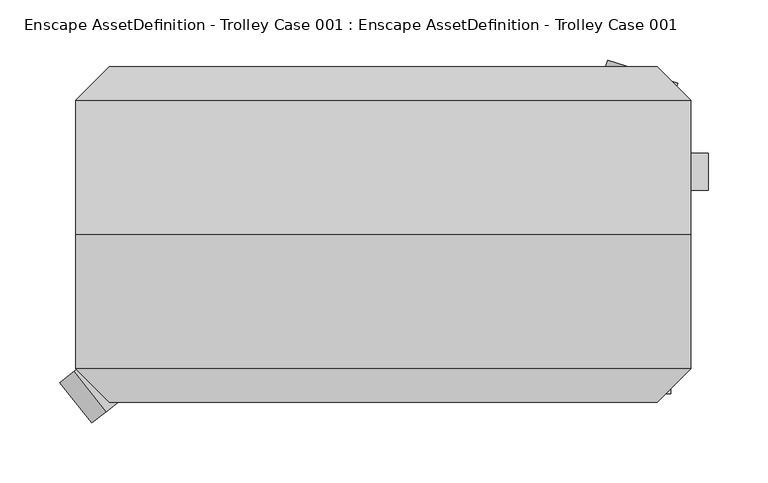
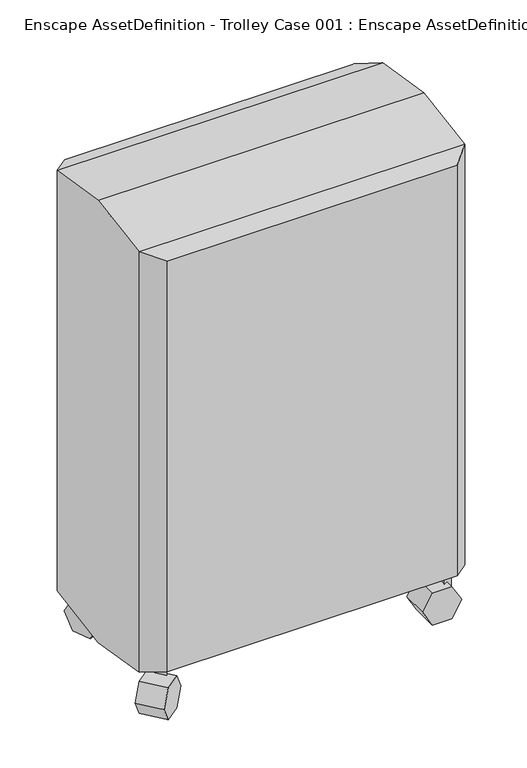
"""IFC4 building model written with IfcOpenShell, lengths in millimetres: geographic element geometry, Enscape AssetDefinition - Trolley Case 001 : Enscape AssetDefinition - Trolley Case 001."""

import ifcopenshell
import ifcopenshell.guid

model = None  # the IFC model being written
_history = None  # IfcOwnerHistory: only IFC2X3 demands one
_inside = {}  # id of a spatial element -> (the spatial element, [elements in it])
_under = {}  # id of a project, library or spatial element -> (it, [spatial elements below it])
_declared = {}  # id of a project -> (the project, [libraries it declares])
_typed = {}  # id of a type object -> (the type object, [elements of that type])
_made_of = {}  # id of a material, layer set ... -> (it, [elements and type objects made of it])


def new_model(schema):
    """Start an empty IFC model of exactly this schema.

    Asked for "IFC4X3", IfcOpenShell would pick the latest addendum, in which some entities
    have other attributes; the version numbers below select the first issue.
    IFC2X3 requires an IfcOwnerHistory on every rooted entity: one is made here for all.
    """
    global model, _history
    if schema == "IFC4X3":
        model = ifcopenshell.file(schema_version=(4, 3, 0, 0))
    else:
        model = ifcopenshell.file(schema=schema)
    _inside.clear()
    _under.clear()
    _declared.clear()
    _typed.clear()
    _made_of.clear()
    _history = None
    if model.schema == "IFC2X3":
        org = make("IfcOrganization", Name="unknown")
        user = make(
            "IfcPersonAndOrganization",
            ThePerson=make("IfcPerson", FamilyName="unknown"),
            TheOrganization=org,
        )
        app = make(
            "IfcApplication",
            ApplicationDeveloper=org,
            Version="unknown",
            ApplicationFullName="unknown",
            ApplicationIdentifier="unknown",
        )
        _history = make(
            "IfcOwnerHistory",
            OwningUser=user,
            OwningApplication=app,
            ChangeAction="ADDED",
            CreationDate=0,
        )
    return model


def make(cls, **values):
    """One entity of the class cls with the attributes given. An attribute that is None is left unset."""
    return model.create_entity(
        cls, **{name: value for name, value in values.items() if value is not None}
    )


def rooted(cls, **values):
    """An entity with a GlobalId (a new one), such as an element, a storey or a relation."""
    return make(cls, GlobalId=ifcopenshell.guid.new(), OwnerHistory=_history, **values)


def si_unit(unit_type, name, prefix=None):
    """IfcSIUnit, for example si_unit("LENGTHUNIT", "METRE", prefix="MILLI")."""
    return make("IfcSIUnit", UnitType=unit_type, Prefix=prefix, Name=name)


def assignment(units):
    """IfcUnitAssignment: the units of a project."""
    return None if units is None else make("IfcUnitAssignment", Units=units)


def point(xyz):
    """IfcCartesianPoint."""
    return None if xyz is None else make("IfcCartesianPoint", Coordinates=xyz)


def direction(xyz):
    """IfcDirection."""
    return None if xyz is None else make("IfcDirection", DirectionRatios=xyz)


def frame(location, z_axis=None, x_axis=None):
    """IfcAxis2Placement3D, a coordinate frame: its origin and axes. An axis left out is left unset."""
    return make(
        "IfcAxis2Placement3D",
        Location=point(location),
        Axis=direction(z_axis),
        RefDirection=direction(x_axis),
    )


def origin():
    """The frame at (0, 0, 0) with its axes left unset."""
    return frame((0.0, 0.0, 0.0))


def place(relative_to, where):
    """IfcLocalPlacement: puts the frame where relative to a parent placement (None: the world)."""
    return make(
        "IfcLocalPlacement", PlacementRelTo=relative_to, RelativePlacement=where
    )


def context(
    kind, dimensions, precision=None, world=None, true_north=None, identifier=None
):
    """IfcGeometricRepresentationContext, for example the 3D "Model" context."""
    return make(
        "IfcGeometricRepresentationContext",
        ContextIdentifier=identifier,
        ContextType=kind,
        CoordinateSpaceDimension=dimensions,
        Precision=precision,
        WorldCoordinateSystem=world,
        TrueNorth=true_north,
    )


def project(units=None, contexts=None):
    """IfcProject with its units and contexts."""
    return rooted(
        "IfcProject",
        Name="project",
        RepresentationContexts=contexts,
        UnitsInContext=assignment(units),
    )


def spatial(cls, under=None, at=None, **own):
    """A site, building, storey or space (cls), placed at a placement, below another one or the project."""
    s = rooted(cls, ObjectPlacement=at, **own)
    if under is not None:
        _under.setdefault(under.id(), (under, []))[1].append(s)
    return s


def point_list(points):
    """IfcCartesianPointList2D or 3D."""
    cls = (
        "IfcCartesianPointList2D" if len(points[0]) == 2 else "IfcCartesianPointList3D"
    )
    return make(cls, CoordList=points)


def triangles(points, corners, closed=None, point_numbers=None):
    """IfcTriangulatedFaceSet: each triangle names its three corners, points numbered from 1."""
    return make(
        "IfcTriangulatedFaceSet",
        Coordinates=point_list(points),
        Closed=closed,
        CoordIndex=corners,
        PnIndex=point_numbers,
    )


def shape(context_of_items, identifier, shape_type, items):
    """IfcShapeRepresentation: the items that make up one representation, for example the "Body"."""
    return make(
        "IfcShapeRepresentation",
        ContextOfItems=context_of_items,
        RepresentationIdentifier=identifier,
        RepresentationType=shape_type,
        Items=items,
    )


def source(mapping_origin, context_of_items, identifier, shape_type, items):
    """IfcRepresentationMap: a shape defined once, which mapped items show again and again."""
    return make(
        "IfcRepresentationMap",
        MappingOrigin=mapping_origin,
        MappedRepresentation=shape(context_of_items, identifier, shape_type, items),
    )


def transform(
    local_origin,
    x_axis=None,
    y_axis=None,
    z_axis=None,
    scale=None,
    scale2=None,
    scale3=None,
    uniform=True,
):
    """IfcCartesianTransformationOperator3D, or its non-uniform kind. x_axis, y_axis, z_axis: its Axis1, 2, 3."""
    if uniform:
        return make(
            "IfcCartesianTransformationOperator3D",
            Axis1=direction(x_axis),
            Axis2=direction(y_axis),
            LocalOrigin=point(local_origin),
            Scale=scale,
            Axis3=direction(z_axis),
        )
    return make(
        "IfcCartesianTransformationOperator3DnonUniform",
        Axis1=direction(x_axis),
        Axis2=direction(y_axis),
        LocalOrigin=point(local_origin),
        Scale=scale,
        Axis3=direction(z_axis),
        Scale2=scale2,
        Scale3=scale3,
    )


def mapped(mapping_source, mapping_target):
    """IfcMappedItem: shows the shape of a source again, moved by a transform."""
    return make(
        "IfcMappedItem", MappingSource=mapping_source, MappingTarget=mapping_target
    )


def made_of(thing, what):
    """Note that an element or type object is made of a material, layer set ...; save() writes the relation."""
    if what is not None:
        _made_of.setdefault(what.id(), (what, []))[1].append(thing)
    return thing


def element(
    cls,
    number,
    at=None,
    inside=None,
    cuts=None,
    type_object=None,
    material=None,
    context=None,
    identifier="Body",
    shape_type=None,
    held_by="IfcProductDefinitionShape",
    body=None,
    shapes=None,
    **own,
):
    """One element of the class cls, such as IfcWall. Its Tag is "e" and its number.

    at: its placement. inside: the storey or other place that contains it. cuts: it is an
    opening in that element (IfcRelVoidsElement). A single representation is given by context,
    identifier, shape_type and body (its items); several are given by shapes. held_by: the class
    of the entity that holds the representations. save() writes the other relations.
    """
    e = rooted(cls, Tag="e%d" % number, ObjectPlacement=at, **own)
    if body is not None:
        shapes = [shape(context, identifier, shape_type, body)]
    if shapes is not None:
        e.Representation = make(held_by, Representations=shapes)
    if inside is not None:
        _inside.setdefault(inside.id(), (inside, []))[1].append(e)
    if cuts is not None:
        rooted(
            "IfcRelVoidsElement", RelatingBuildingElement=cuts, RelatedOpeningElement=e
        )
    if type_object is not None:
        _typed.setdefault(type_object.id(), (type_object, []))[1].append(e)
    return made_of(e, material)


def aggregate(whole, parts):
    """IfcRelAggregates: a whole, such as a stair, and the parts it consists of."""
    return rooted("IfcRelAggregates", RelatingObject=whole, RelatedObjects=parts)


def save(model, path):
    """Write the relations noted so far, then the file.

    IfcRelAggregates (storeys below a building ...), IfcRelContainedInSpatialStructure (elements
    in a storey), IfcRelDefinesByType, IfcRelAssociatesMaterial and IfcRelDeclares: one each for
    every whole, place, type object, material and project.
    """
    for whole, parts in _under.values():
        aggregate(whole, parts)
    for where, things in _inside.values():
        rooted(
            "IfcRelContainedInSpatialStructure",
            RelatedElements=things,
            RelatingStructure=where,
        )
    for kind, things in _typed.values():
        rooted("IfcRelDefinesByType", RelatedObjects=things, RelatingType=kind)
    for what, things in _made_of.values():
        rooted("IfcRelAssociatesMaterial", RelatedObjects=things, RelatingMaterial=what)
    for by, libraries in _declared.values():
        rooted("IfcRelDeclares", RelatingContext=by, RelatedDefinitions=libraries)
    model.write(path)


def enscape_assetdefinition_trolley_case_001_enscape_be718ea5(model_context):
    return source(origin(), model_context, "Body", "Tessellation", [
        triangles([(252.7648586, -11.532724, 784.7432339), (-232.4115951, -151.5415132, 757.9645632), (224.8811136, -151.5415132, 757.9645632), (252.7648586, -123.6567599, 766.7090876), (-260.2963393, -11.532724, 784.7432339), (224.8811136, 128.4760515, 757.9645632), (-260.2963393, -123.6567599, 766.7090876), (-260.2963393, 100.5913164, 65.5341131), (-260.2963393, 100.5913164, 766.7090876), (-232.4115951, 128.4760515, 757.9645632), (-232.4115951, 128.4760515, 74.2796594), (224.8811136, 128.4760515, 74.2796594), (252.7648586, 100.5913164, 766.7090876), (252.7648586, -11.532724, 47.4999804), (252.7648586, 100.5913164, 65.5341131), (-260.2963393, -11.532724, 47.4999804), (252.7648586, -123.6567599, 65.5341131), (-260.2963393, -123.6567599, 65.5341131), (-232.4115951, -151.5415132, 74.2796594), (224.8811136, -151.5415132, 74.2796594), (267.2977833, 56.1255167, 340.1133242), (238.4549762, 56.1255167, 315.1767649), (238.4549762, 56.1255167, 509.3889656), (267.2977833, 56.1255167, 492.0828635), (267.2977833, 25.4976011, 340.1133242), (238.4549762, 25.4976011, 315.1767649), (238.4549762, 25.4976011, 509.3889656), (267.2977833, 25.4976011, 492.0828635), (220.7678473, -101.4063648, -0.7660481), (236.1468141, -101.4063648, 25.8706229), (174.6329453, -101.4063648, 25.8706229), (190.010931, -101.4063648, -0.7660481), (190.010931, -144.1650375, -0.7660481), (190.010931, -101.4063648, 52.5062927), (220.7678473, -101.4063648, 52.5062927), (190.010931, -144.1650375, 52.5062927), (174.6329453, -144.1650375, 25.8696237), (220.7678473, -144.1650375, -0.7660481), (220.7678473, -144.1650375, 52.5062927), (236.1468141, -144.1650375, 25.8696237), (231.7275526, -123.8537682, 84.0582776), (231.7275526, -123.8537682, 19.5252254), (220.7308401, -123.8537682, 19.5252254), (215.232502, -114.3301762, 19.5252254), (215.232502, -133.3773693, 19.5252254), (215.232502, -133.3773693, 84.0582776), (215.232502, -114.3301762, 84.0582776), (183.7105343, 134.066417, 25.8706229), (198.3234505, 129.2741042, -0.7660481), (184.8115936, 88.0695244, -0.7660481), (170.1986956, 92.8618282, 25.8696237), (198.3234505, 129.2741042, 52.5062927), (214.0374259, 78.4859251, -0.7660481), (227.5492829, 119.6905049, -0.7660481), (242.1621991, 114.8992003, 25.8706229), (184.8115936, 88.0695244, 52.5062927), (227.5492829, 119.6905049, 52.5062927), (228.6503421, 73.6946251, 25.8696237), (214.0374259, 78.4859251, 52.5062927), (230.7204738, 95.6659993, 84.0582776), (230.7204738, 95.6659993, 19.5252254), (212.0792969, 91.7557638, 19.5252254), (220.2718201, 99.0922164, 19.5252254), (218.0146904, 109.8548952, 19.5252254), (218.0146904, 109.8548952, 84.0582776), (212.0792969, 91.7557638, 84.0582776), (-210.7922207, -140.2387874, -0.7660481), (-210.7922207, -140.2387874, 52.5062927), (-247.1185099, -168.6795841, 25.8706229), (-235.0097468, -159.1989854, -0.7660481), (-198.6834758, -130.7581978, 25.8706229), (-261.368385, -125.5318635, -0.7660481), (-225.042114, -97.091094, 25.8696237), (-237.150877, -106.5706844, -0.7660481), (-237.150877, -106.5706844, 52.5062927), (-235.0097468, -159.1989854, 52.5062927), (-273.4771663, -135.0114811, 25.8696237), (-261.368385, -125.5318635, 52.5062927), (-233.4876559, -117.4043708, 84.0582776), (-214.6284691, -114.7342031, 84.0582776), (-214.6284691, -114.7342031, 19.5252254), (-223.2870067, -121.5136313, 19.5252254), (-233.4876559, -117.4043708, 19.5252254), (-221.7459307, -132.4013025, 19.5252254), (-221.7459307, -132.4013025, 84.0582776), (-201.8706722, 104.9315856, -0.7660481), (-207.2560085, 119.3364931, 25.8706229), (-201.8706722, 104.9315856, 52.5062927), (-185.7146453, 61.7178716, 25.8706229), (-241.9221883, 89.9586442, -0.7660481), (-247.3075245, 104.3635516, 25.8696237), (-241.9221883, 89.9586442, 52.5062927), (-231.1514976, 61.1488384, -0.7660481), (-191.0999997, 76.1227745, -0.7660481), (-191.0999997, 76.1227745, 52.5062927), (-231.1514976, 61.1488384, 52.5062927), (-225.7661432, 46.7449347, 25.8696237), (-226.2091757, 109.3928595, 19.5252254), (-211.5132704, 97.2771019, 19.5252254), (-229.353406, 90.6066788, 84.0582776), (-229.353406, 90.6066788, 19.5252254), (-222.3589565, 99.0922164, 19.5252254), (-226.2091757, 109.3928595, 84.0582776), (-211.5132704, 97.2771019, 84.0582776)], [[103, 104, 99], [104, 103, 100], [99, 101, 102], [104, 100, 101], [101, 99, 104], [98, 99, 102], [101, 98, 102], [99, 98, 103], [100, 103, 98], [98, 101, 100], [97, 96, 92], [92, 96, 95], [96, 97, 89], [89, 95, 96], [94, 89, 97], [97, 93, 94], [93, 97, 90], [97, 92, 90], [92, 91, 90], [91, 92, 88], [95, 88, 92], [88, 95, 89], [90, 91, 87], [88, 87, 91], [93, 90, 86], [86, 94, 93], [87, 86, 90], [94, 86, 89], [86, 88, 89], [86, 87, 88], [80, 85, 84], [85, 80, 79], [84, 83, 82], [85, 79, 83], [83, 84, 85], [81, 84, 82], [83, 81, 82], [84, 81, 80], [79, 80, 81], [81, 83, 79], [77, 78, 75], [75, 78, 76], [78, 77, 69], [69, 76, 78], [70, 69, 77], [77, 72, 70], [72, 77, 74], [77, 75, 74], [75, 73, 74], [73, 75, 68], [76, 68, 75], [68, 76, 69], [74, 73, 71], [68, 71, 73], [72, 74, 67], [67, 70, 72], [71, 67, 74], [70, 67, 69], [67, 68, 69], [67, 71, 68], [60, 66, 62], [66, 60, 65], [62, 64, 63], [66, 65, 64], [64, 62, 66], [61, 62, 63], [64, 61, 63], [62, 61, 60], [65, 60, 61], [61, 64, 65], [58, 59, 56], [56, 59, 57], [59, 58, 55], [55, 57, 59], [54, 55, 58], [58, 53, 54], [53, 58, 50], [58, 56, 50], [56, 51, 50], [51, 56, 52], [57, 52, 56], [52, 57, 55], [50, 51, 48], [52, 48, 51], [53, 50, 49], [49, 54, 53], [48, 49, 50], [54, 49, 55], [49, 52, 55], [49, 48, 52], [41, 46, 45], [46, 41, 47], [45, 44, 43], [46, 47, 44], [44, 45, 46], [42, 45, 43], [44, 42, 43], [45, 42, 41], [47, 41, 42], [42, 44, 47], [40, 39, 36], [36, 39, 35], [39, 40, 30], [30, 35, 39], [29, 30, 40], [40, 38, 29], [38, 40, 33], [40, 36, 33], [36, 37, 33], [37, 36, 34], [35, 34, 36], [34, 35, 30], [33, 37, 31], [34, 31, 37], [38, 33, 32], [32, 29, 38], [31, 32, 33], [29, 32, 30], [32, 34, 30], [32, 31, 34], [28, 25, 21], [21, 24, 28], [28, 24, 23], [23, 27, 28], [25, 28, 27], [21, 25, 26], [27, 26, 25], [22, 23, 24], [24, 21, 22], [26, 22, 21], [27, 23, 22], [22, 26, 27], [20, 3, 2], [2, 19, 20], [17, 20, 19], [19, 2, 7], [19, 18, 17], [7, 18, 19], [16, 14, 17], [17, 18, 16], [15, 17, 14], [15, 14, 16], [13, 15, 12], [12, 15, 8], [18, 8, 16], [16, 8, 15], [8, 18, 7], [8, 11, 12], [10, 11, 8], [12, 6, 13], [11, 10, 6], [6, 12, 11], [8, 9, 10], [7, 9, 8], [9, 13, 6], [6, 10, 9], [7, 5, 9], [13, 9, 5], [5, 1, 13], [20, 17, 4], [4, 3, 20], [15, 13, 4], [4, 17, 15], [4, 7, 2], [2, 3, 4], [13, 1, 4], [5, 7, 4], [4, 1, 5]]),
    ])


if __name__ == "__main__":
    model = new_model("IFC4")
    model_context = context("Model", 3, world=origin())
    ifc_project = project(units=[si_unit("LENGTHUNIT", "METRE", prefix="MILLI")], contexts=[model_context])
    site = spatial("IfcSite", under=ifc_project)
    building = spatial("IfcBuilding", under=site)
    placement = place(None, origin())
    enscape_assetdefinition_trolley_case_001_enscape_shape = enscape_assetdefinition_trolley_case_001_enscape_be718ea5(model_context)
    element("IfcGeographicElement", 1, ObjectType="Enscape AssetDefinition - Trolley Case 001 : Enscape AssetDefinition - Trolley Case 001", at=placement, inside=building, context=model_context, shape_type="MappedRepresentation", body=[
        mapped(enscape_assetdefinition_trolley_case_001_enscape_shape, transform((0.0, 0.0, 0.0), x_axis=(1.0, 0.0, 0.0), y_axis=(0.0, 1.0, 0.0), z_axis=(0.0, 0.0, 1.0))),
    ])
    save(model, "model.ifc")
